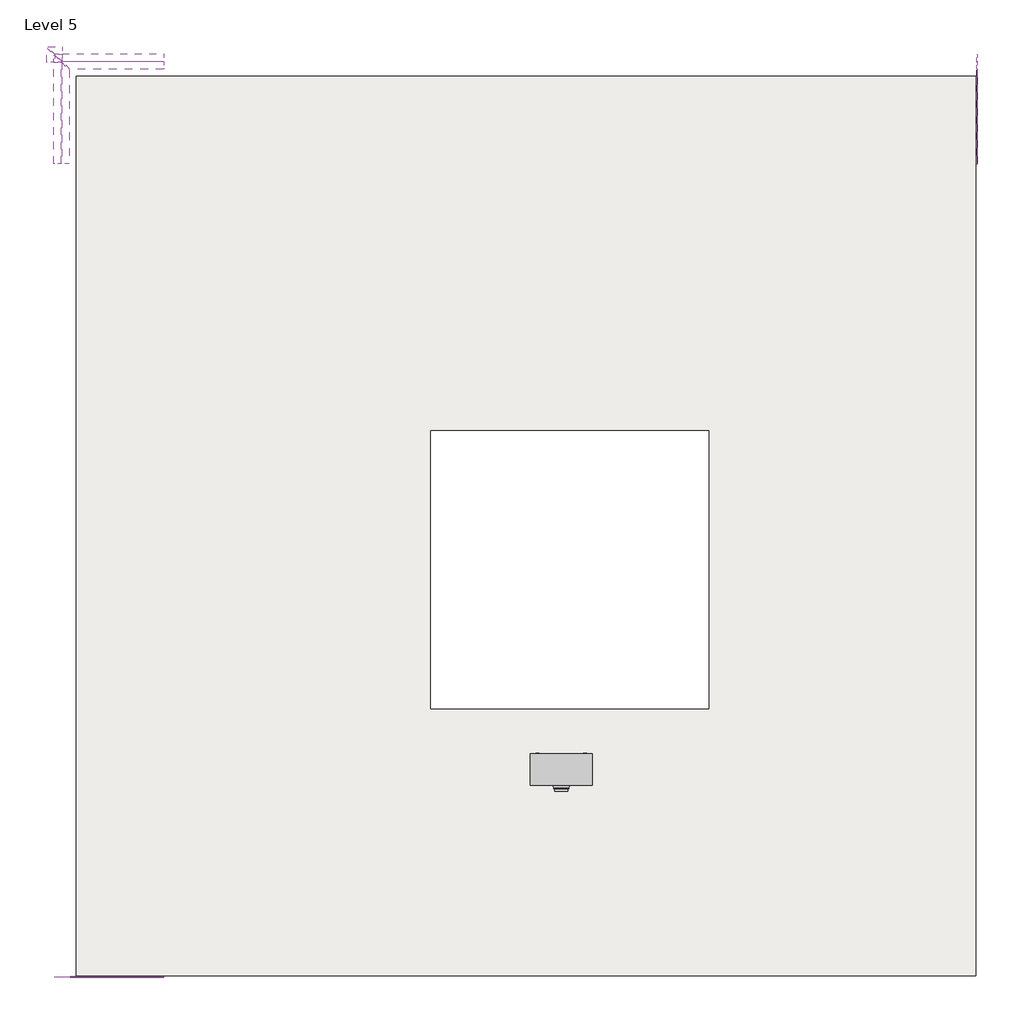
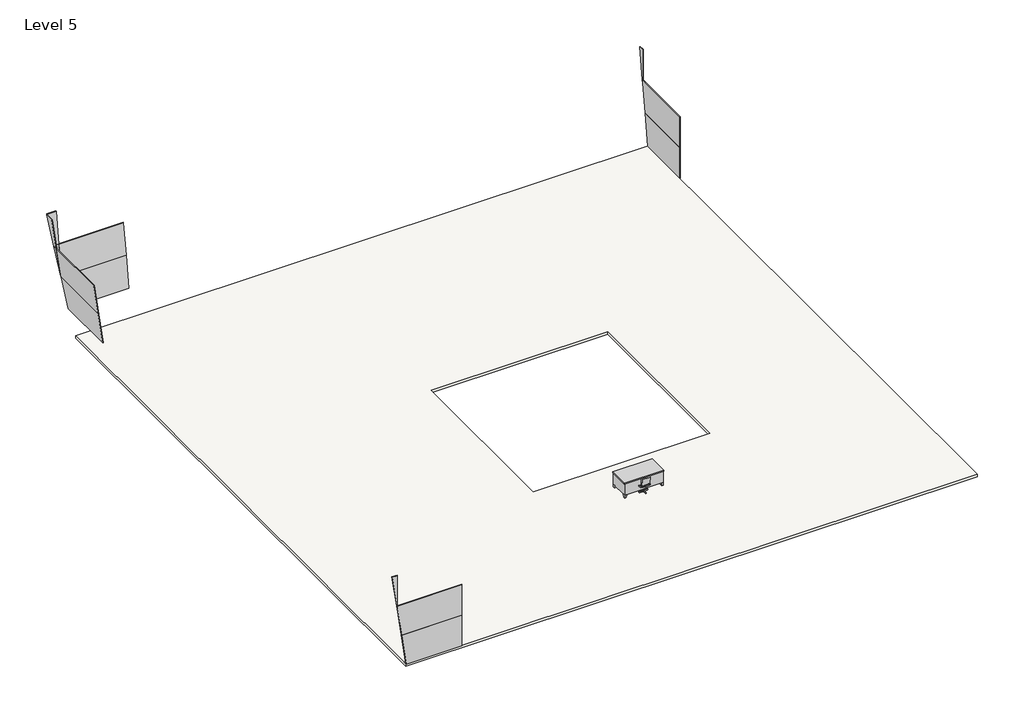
# One storey, incomplete: 16 plates, 2 furniture elements, 1 slab.
"""IFC4 building model written with IfcOpenShell, lengths in millimetres."""

import ifcopenshell
import ifcopenshell.guid

model = None  # the IFC model being written
_history = None  # IfcOwnerHistory: only IFC2X3 demands one
_inside = {}  # id of a spatial element -> (the spatial element, [elements in it])
_under = {}  # id of a project, library or spatial element -> (it, [spatial elements below it])
_declared = {}  # id of a project -> (the project, [libraries it declares])
_typed = {}  # id of a type object -> (the type object, [elements of that type])
_made_of = {}  # id of a material, layer set ... -> (it, [elements and type objects made of it])


def new_model(schema):
    """Start an empty IFC model of exactly this schema.

    Asked for "IFC4X3", IfcOpenShell would pick the latest addendum, in which some entities
    have other attributes; the version numbers below select the first issue.
    IFC2X3 requires an IfcOwnerHistory on every rooted entity: one is made here for all.
    """
    global model, _history
    if schema == "IFC4X3":
        model = ifcopenshell.file(schema_version=(4, 3, 0, 0))
    else:
        model = ifcopenshell.file(schema=schema)
    _inside.clear()
    _under.clear()
    _declared.clear()
    _typed.clear()
    _made_of.clear()
    _history = None
    if model.schema == "IFC2X3":
        org = make("IfcOrganization", Name="unknown")
        user = make(
            "IfcPersonAndOrganization",
            ThePerson=make("IfcPerson", FamilyName="unknown"),
            TheOrganization=org,
        )
        app = make(
            "IfcApplication",
            ApplicationDeveloper=org,
            Version="unknown",
            ApplicationFullName="unknown",
            ApplicationIdentifier="unknown",
        )
        _history = make(
            "IfcOwnerHistory",
            OwningUser=user,
            OwningApplication=app,
            ChangeAction="ADDED",
            CreationDate=0,
        )
    return model


def make(cls, **values):
    """One entity of the class cls with the attributes given. An attribute that is None is left unset."""
    return model.create_entity(
        cls, **{name: value for name, value in values.items() if value is not None}
    )


def rooted(cls, **values):
    """An entity with a GlobalId (a new one), such as an element, a storey or a relation."""
    return make(cls, GlobalId=ifcopenshell.guid.new(), OwnerHistory=_history, **values)


def si_unit(unit_type, name, prefix=None):
    """IfcSIUnit, for example si_unit("LENGTHUNIT", "METRE", prefix="MILLI")."""
    return make("IfcSIUnit", UnitType=unit_type, Prefix=prefix, Name=name)


def assignment(units):
    """IfcUnitAssignment: the units of a project."""
    return None if units is None else make("IfcUnitAssignment", Units=units)


def point(xyz):
    """IfcCartesianPoint."""
    return None if xyz is None else make("IfcCartesianPoint", Coordinates=xyz)


def direction(xyz):
    """IfcDirection."""
    return None if xyz is None else make("IfcDirection", DirectionRatios=xyz)


def frame(location, z_axis=None, x_axis=None):
    """IfcAxis2Placement3D, a coordinate frame: its origin and axes. An axis left out is left unset."""
    return make(
        "IfcAxis2Placement3D",
        Location=point(location),
        Axis=direction(z_axis),
        RefDirection=direction(x_axis),
    )


def frame_2d(location, x_axis=None):
    """IfcAxis2Placement2D, a coordinate frame in the plane: its origin and x axis."""
    return make(
        "IfcAxis2Placement2D", Location=point(location), RefDirection=direction(x_axis)
    )


def origin():
    """The frame at (0, 0, 0) with its axes left unset."""
    return frame((0.0, 0.0, 0.0))


def origin_with_axes():
    """The frame at (0, 0, 0) with the z axis (0, 0, 1) and the x axis (1, 0, 0) written out."""
    return frame((0.0, 0.0, 0.0), z_axis=(0.0, 0.0, 1.0), x_axis=(1.0, 0.0, 0.0))


def place(relative_to, where):
    """IfcLocalPlacement: puts the frame where relative to a parent placement (None: the world)."""
    return make(
        "IfcLocalPlacement", PlacementRelTo=relative_to, RelativePlacement=where
    )


def context(
    kind, dimensions, precision=None, world=None, true_north=None, identifier=None
):
    """IfcGeometricRepresentationContext, for example the 3D "Model" context."""
    return make(
        "IfcGeometricRepresentationContext",
        ContextIdentifier=identifier,
        ContextType=kind,
        CoordinateSpaceDimension=dimensions,
        Precision=precision,
        WorldCoordinateSystem=world,
        TrueNorth=true_north,
    )


def project(units=None, contexts=None):
    """IfcProject with its units and contexts."""
    return rooted(
        "IfcProject",
        Name="project",
        RepresentationContexts=contexts,
        UnitsInContext=assignment(units),
    )


def spatial(cls, under=None, at=None, **own):
    """A site, building, storey or space (cls), placed at a placement, below another one or the project."""
    s = rooted(cls, ObjectPlacement=at, **own)
    if under is not None:
        _under.setdefault(under.id(), (under, []))[1].append(s)
    return s


def polyline(points):
    """IfcPolyline through the points."""
    return make("IfcPolyline", Points=[point(p) for p in points])


def circle_curve(where, radius):
    """IfcCircle in the frame where."""
    return make("IfcCircle", Position=where, Radius=radius)


def trimmed(basis, trim1, trim2, sense, master):
    """IfcTrimmedCurve: the piece of a basis curve between two trims."""
    return make(
        "IfcTrimmedCurve",
        BasisCurve=basis,
        Trim1=trim1,
        Trim2=trim2,
        SenseAgreement=sense,
        MasterRepresentation=master,
    )


def segment(curve, same_sense, transition):
    """IfcCompositeCurveSegment."""
    return make(
        "IfcCompositeCurveSegment",
        Transition=transition,
        SameSense=same_sense,
        ParentCurve=curve,
    )


def composite_curve(segments, self_intersect=None):
    """IfcCompositeCurve: segments joined end to end."""
    return make("IfcCompositeCurve", Segments=segments, SelfIntersect=self_intersect)


def outline(outer, holes=None, kind="AREA"):
    """IfcArbitraryClosedProfileDef: a profile drawn as a closed curve; with holes, ...WithVoids."""
    if holes is None:
        return make("IfcArbitraryClosedProfileDef", ProfileType=kind, OuterCurve=outer)
    return make(
        "IfcArbitraryProfileDefWithVoids",
        ProfileType=kind,
        OuterCurve=outer,
        InnerCurves=holes,
    )


def extrude(swept, where, along, depth):
    """IfcExtrudedAreaSolid: the profile swept, set in the frame where, extruded along a direction by depth."""
    return make(
        "IfcExtrudedAreaSolid",
        SweptArea=swept,
        Position=where,
        ExtrudedDirection=direction(along),
        Depth=depth,
    )


def faces_of(points, faces, orient=None, outer=None):
    """IfcFace entities. A face is a list of loops; a loop is a list of indices into points, from 0.

    orient and outer hold one flag for each loop. By default every Orientation is true, the
    first loop of a face is its IfcFaceOuterBound and the others are IfcFaceBound.
    """
    made = []
    for i, loops in enumerate(faces):
        bounds = []
        for j, loop in enumerate(loops):
            is_outer = j == 0 if outer is None else outer[i][j]
            bounds.append(
                make(
                    "IfcFaceOuterBound" if is_outer else "IfcFaceBound",
                    Bound=make("IfcPolyLoop", Polygon=[points[k] for k in loop]),
                    Orientation=True if orient is None else orient[i][j],
                )
            )
        made.append(make("IfcFace", Bounds=bounds))
    return made


def faceted_brep(points, faces, orient=None, outer=None, voids=None):
    """IfcFacetedBrep: a solid bounded by flat faces; with voids (closed shells), ...WithVoids."""
    shared = [point(p) for p in points]
    hull = make("IfcClosedShell", CfsFaces=faces_of(shared, faces, orient, outer))
    if voids is None:
        return make("IfcFacetedBrep", Outer=hull)
    return make(
        "IfcFacetedBrepWithVoids",
        Outer=hull,
        Voids=[
            make(cls, CfsFaces=faces_of(shared, fs, o, b)) for cls, fs, o, b in voids
        ],
    )


def shape(context_of_items, identifier, shape_type, items):
    """IfcShapeRepresentation: the items that make up one representation, for example the "Body"."""
    return make(
        "IfcShapeRepresentation",
        ContextOfItems=context_of_items,
        RepresentationIdentifier=identifier,
        RepresentationType=shape_type,
        Items=items,
    )


def source(mapping_origin, context_of_items, identifier, shape_type, items):
    """IfcRepresentationMap: a shape defined once, which mapped items show again and again."""
    return make(
        "IfcRepresentationMap",
        MappingOrigin=mapping_origin,
        MappedRepresentation=shape(context_of_items, identifier, shape_type, items),
    )


def transform(
    local_origin,
    x_axis=None,
    y_axis=None,
    z_axis=None,
    scale=None,
    scale2=None,
    scale3=None,
    uniform=True,
):
    """IfcCartesianTransformationOperator3D, or its non-uniform kind. x_axis, y_axis, z_axis: its Axis1, 2, 3."""
    if uniform:
        return make(
            "IfcCartesianTransformationOperator3D",
            Axis1=direction(x_axis),
            Axis2=direction(y_axis),
            LocalOrigin=point(local_origin),
            Scale=scale,
            Axis3=direction(z_axis),
        )
    return make(
        "IfcCartesianTransformationOperator3DnonUniform",
        Axis1=direction(x_axis),
        Axis2=direction(y_axis),
        LocalOrigin=point(local_origin),
        Scale=scale,
        Axis3=direction(z_axis),
        Scale2=scale2,
        Scale3=scale3,
    )


def mapped(mapping_source, mapping_target):
    """IfcMappedItem: shows the shape of a source again, moved by a transform."""
    return make(
        "IfcMappedItem", MappingSource=mapping_source, MappingTarget=mapping_target
    )


def made_of(thing, what):
    """Note that an element or type object is made of a material, layer set ...; save() writes the relation."""
    if what is not None:
        _made_of.setdefault(what.id(), (what, []))[1].append(thing)
    return thing


def element(
    cls,
    number,
    at=None,
    inside=None,
    cuts=None,
    type_object=None,
    material=None,
    context=None,
    identifier="Body",
    shape_type=None,
    held_by="IfcProductDefinitionShape",
    body=None,
    shapes=None,
    **own,
):
    """One element of the class cls, such as IfcWall. Its Tag is "e" and its number.

    at: its placement. inside: the storey or other place that contains it. cuts: it is an
    opening in that element (IfcRelVoidsElement). A single representation is given by context,
    identifier, shape_type and body (its items); several are given by shapes. held_by: the class
    of the entity that holds the representations. save() writes the other relations.
    """
    e = rooted(cls, Tag="e%d" % number, ObjectPlacement=at, **own)
    if body is not None:
        shapes = [shape(context, identifier, shape_type, body)]
    if shapes is not None:
        e.Representation = make(held_by, Representations=shapes)
    if inside is not None:
        _inside.setdefault(inside.id(), (inside, []))[1].append(e)
    if cuts is not None:
        rooted(
            "IfcRelVoidsElement", RelatingBuildingElement=cuts, RelatedOpeningElement=e
        )
    if type_object is not None:
        _typed.setdefault(type_object.id(), (type_object, []))[1].append(e)
    return made_of(e, material)


def aggregate(whole, parts):
    """IfcRelAggregates: a whole, such as a stair, and the parts it consists of."""
    return rooted("IfcRelAggregates", RelatingObject=whole, RelatedObjects=parts)


def save(model, path):
    """Write the relations noted so far, then the file.

    IfcRelAggregates (storeys below a building ...), IfcRelContainedInSpatialStructure (elements
    in a storey), IfcRelDefinesByType, IfcRelAssociatesMaterial and IfcRelDeclares: one each for
    every whole, place, type object, material and project.
    """
    for whole, parts in _under.values():
        aggregate(whole, parts)
    for where, things in _inside.values():
        rooted(
            "IfcRelContainedInSpatialStructure",
            RelatedElements=things,
            RelatingStructure=where,
        )
    for kind, things in _typed.values():
        rooted("IfcRelDefinesByType", RelatedObjects=things, RelatingType=kind)
    for what, things in _made_of.values():
        rooted("IfcRelAssociatesMaterial", RelatedObjects=things, RelatingMaterial=what)
    for by, libraries in _declared.values():
        rooted("IfcRelDeclares", RelatingContext=by, RelatedDefinitions=libraries)
    model.write(path)


def chair_desk_chair_desk_ccc35c8f(model_context):
    return source(origin(), model_context, "Body", "SweptSolid", [
        extrude(outline(polyline([(-203.6618182, 175.0290909), (-25.8618182, 175.0290909), (-25.8618182, 150.0462968), (-203.6618182, 150.0462968), (-203.6618182, 175.0290909)])), origin_with_axes(), (0.0, 0.0, 1.0), 58.5040426),
        extrude(outline(polyline([(204.1236364, 175.0290909), (204.1236364, 152.4), (26.7854545, 152.4), (26.7854545, 175.0290909), (204.1236364, 175.0290909)])), origin_with_axes(), (0.0, 0.0, 1.0), 58.5040426),
        extrude(outline(polyline([(-16.1636364, 188.8836364), (-16.1636364, 374.9517514), (14.3163636, 374.9517514), (14.3163636, 188.8836364), (-16.1636364, 188.8836364)])), origin_with_axes(), (0.0, 0.0, 1.0), 58.5040426),
        extrude(outline(polyline([(14.3163636, 136.2363636), (14.3163636, -33.2509091), (-16.1636364, -33.2509091), (-16.1636364, 136.2363636), (14.3163636, 136.2363636)])), origin_with_axes(), (0.0, 0.0, 1.0), 58.5040426),
        extrude(outline(polyline([(26.3236364, 190.2690909), (26.3236364, 139.4690909), (-24.4763636, 139.4690909), (-24.4763636, 190.2690909), (26.3236364, 190.2690909)])), origin_with_axes(), (0.0, 0.0, 1.0), 355.6),
        extrude(outline(composite_curve([segment(polyline([(-13.6321252, 787.4), (25.5523927, 451.3880753)]), True, "CONTINUOUS"), segment(trimmed(circle_curve(frame_2d((0.0761963, 451.3880753)), 25.4761963), [point((25.5523927, 451.3880753))], [point((-25.4, 451.3880753))], False, "CARTESIAN"), True, "CONTINUOUS"), segment(polyline([(-25.4, 451.3880753), (-67.209111, 787.4)]), True, "CONTINUOUS"), segment(trimmed(circle_curve(frame_2d((-40.4206181, 787.4)), 26.7884929), [point((-67.209111, 787.4))], [point((-13.6321252, 787.4))], False, "CARTESIAN"), True, "CONTINUOUS")], self_intersect=False)), frame((-194.3643056, 0.0, 0.0), z_axis=(1.0, 0.0, 0.0), x_axis=(0.0, 1.0, 0.0)), (0.0, 0.0, 1.0), 383.2768056),
        extrude(outline(composite_curve([segment(trimmed(circle_curve(frame_2d((-157.1362322, 297.1024212)), 109.4001491), [point((-266.4057871, 302.4462968))], [point((-152.4, 406.4))], False, "CARTESIAN"), True, "CONTINUOUS"), segment(polyline([(-152.4, 406.4), (162.2530084, 406.4)]), True, "CONTINUOUS"), segment(trimmed(circle_curve(frame_2d((162.2530084, 302.4462968)), 103.9537032), [point((162.2530084, 406.4))], [point((266.2067116, 302.4462968))], False, "CARTESIAN"), True, "CONTINUOUS"), segment(polyline([(266.2067116, 302.4462968), (228.6, 0.0)]), True, "CONTINUOUS"), segment(trimmed(circle_curve(frame_2d((0.0, 446.8941036)), 501.9684252), [point((228.6, 0.0))], [point((-228.6, 0.0))], False, "CARTESIAN"), True, "CONTINUOUS"), segment(polyline([(-228.6, 0.0), (-266.4057871, 302.4462968)]), True, "CONTINUOUS")], self_intersect=False)), frame((0.0, 0.0, 355.6), z_axis=(0.0, 0.0, 1.0), x_axis=(1.0, 0.0, 0.0)), (0.0, 0.0, 1.0), 50.8),
    ])


def furniture_2fc54265(model_context):
    return source(origin(), model_context, "Body", "SolidModel", [
        extrude(outline(polyline([(1809.75, 914.4), (1441.45, 914.4), (1441.45, 927.1), (1809.75, 927.1), (1809.75, 914.4)])), frame((0.0, 0.0, 603.25), z_axis=(0.0, 0.0, 1.0), x_axis=(1.0, 0.0, 0.0)), (0.0, 0.0, 1.0), 101.6),
        extrude(outline(polyline([(1809.75, 914.4), (1441.45, 914.4), (1441.45, 927.1), (1809.75, 927.1), (1809.75, 914.4)])), frame((0.0, 0.0, 171.45), z_axis=(0.0, 0.0, 1.0), x_axis=(1.0, 0.0, 0.0)), (0.0, 0.0, 1.0), 412.75),
        extrude(outline(polyline([(387.35, 914.4), (19.05, 914.4), (19.05, 927.1), (387.35, 927.1), (387.35, 914.4)])), frame((0.0, 0.0, 603.25), z_axis=(0.0, 0.0, 1.0), x_axis=(1.0, 0.0, 0.0)), (0.0, 0.0, 1.0), 101.6),
        extrude(outline(polyline([(387.35, 914.4), (19.05, 914.4), (19.05, 927.1), (387.35, 927.1), (387.35, 914.4)])), frame((0.0, 0.0, 171.45), z_axis=(0.0, 0.0, 1.0), x_axis=(1.0, 0.0, 0.0)), (0.0, 0.0, 1.0), 171.45),
        extrude(outline(polyline([(387.35, 914.4), (19.05, 914.4), (19.05, 927.1), (387.35, 927.1), (387.35, 914.4)])), frame((0.0, 0.0, 482.6), z_axis=(0.0, 0.0, 1.0), x_axis=(1.0, 0.0, 0.0)), (0.0, 0.0, 1.0), 101.6),
        extrude(outline(polyline([(387.35, 914.4), (19.05, 914.4), (19.05, 927.1), (387.35, 927.1), (387.35, 914.4)])), frame((0.0, 0.0, 361.95), z_axis=(0.0, 0.0, 1.0), x_axis=(1.0, 0.0, 0.0)), (0.0, 0.0, 1.0), 101.6),
        faceted_brep([(1727.2, 914.4, 152.4), (1727.2, 812.8, 152.4), (1828.8, 812.8, 152.4), (1828.8, 914.4, 152.4), (1752.6, 914.4, 0.0), (1828.8, 914.4, 0.0), (1828.8, 838.2, 0.0), (1752.6, 838.2, 0.0)], [[[0, 1, 2, 3]], [[4, 5, 6, 7]], [[4, 7, 1, 0]], [[7, 6, 2, 1]], [[6, 5, 3, 2]], [[5, 4, 0, 3]]]),
        faceted_brep([(1727.2, 0.0, 152.4), (1828.8, 0.0, 152.4), (1828.8, 101.6, 152.4), (1727.2, 101.6, 152.4), (1752.6, 0.0, 0.0), (1752.6, 76.2, 0.0), (1828.8, 76.2, 0.0), (1828.8, 0.0, 0.0)], [[[0, 1, 2, 3]], [[4, 5, 6, 7]], [[4, 7, 1, 0]], [[7, 6, 2, 1]], [[6, 5, 3, 2]], [[5, 4, 0, 3]]]),
        faceted_brep([(101.6, 0.0, 152.4), (101.6, 101.6, 152.4), (0.0, 101.6, 152.4), (0.0, 0.0, 152.4), (76.2, 0.0, 0.0), (0.0, 0.0, 0.0), (0.0, 76.2, 0.0), (76.2, 76.2, 0.0)], [[[0, 1, 2, 3]], [[4, 5, 6, 7]], [[4, 7, 1, 0]], [[7, 6, 2, 1]], [[6, 5, 3, 2]], [[5, 4, 0, 3]]]),
        faceted_brep([(101.6, 914.4, 152.4), (0.0, 914.4, 152.4), (0.0, 812.8, 152.4), (101.6, 812.8, 152.4), (76.2, 914.4, 0.0), (76.2, 838.2, 0.0), (0.0, 838.2, 0.0), (0.0, 914.4, 0.0)], [[[0, 1, 2, 3]], [[4, 5, 6, 7]], [[4, 7, 1, 0]], [[7, 6, 2, 1]], [[6, 5, 3, 2]], [[5, 4, 0, 3]]]),
        extrude(outline(polyline([(1847.85, 933.45), (1847.85, -19.05), (-19.05, -19.05), (-19.05, 933.45), (1847.85, 933.45)])), frame((0.0, 0.0, 723.9), z_axis=(0.0, 0.0, 1.0), x_axis=(1.0, 0.0, 0.0)), (0.0, 0.0, 1.0), 38.1),
        extrude(outline(polyline([(406.4, 914.4), (406.4, 50.8), (1422.4, 50.8), (1422.4, 914.4), (1828.8, 914.4), (1828.8, 0.0), (0.0, 0.0), (0.0, 914.4), (406.4, 914.4)])), frame((0.0, 0.0, 152.4), z_axis=(0.0, 0.0, 1.0), x_axis=(1.0, 0.0, 0.0)), (0.0, 0.0, 1.0), 571.5),
        faceted_brep([(1670.05, 927.1, 546.1), (1670.05, 927.1, 533.4), (1676.4, 927.1, 533.4), (1676.4, 927.1, 546.1), (1670.05, 946.15, 546.1), (1670.05, 946.15, 533.4), (1676.4, 952.5, 533.4), (1676.4, 952.5, 546.1), (1581.15, 946.15, 546.1), (1581.15, 946.15, 533.4), (1574.8, 952.5, 533.4), (1574.8, 952.5, 546.1), (1581.15, 927.1, 546.1), (1574.8, 927.1, 546.1), (1574.8, 927.1, 533.4), (1581.15, 927.1, 533.4)], [[[0, 1, 2, 3]], [[1, 0, 4, 5]], [[2, 1, 5, 6]], [[3, 2, 6, 7]], [[0, 3, 7, 4]], [[5, 4, 8, 9]], [[6, 5, 9, 10]], [[7, 6, 10, 11]], [[4, 7, 11, 8]], [[12, 13, 14, 15]], [[9, 8, 12, 15]], [[10, 9, 15, 14]], [[11, 10, 14, 13]], [[8, 11, 13, 12]]]),
        faceted_brep([(1670.05, 927.1, 666.75), (1670.05, 927.1, 654.05), (1676.4, 927.1, 654.05), (1676.4, 927.1, 666.75), (1670.05, 946.15, 666.75), (1670.05, 946.15, 654.05), (1676.4, 952.5, 654.05), (1676.4, 952.5, 666.75), (1581.15, 946.15, 666.75), (1581.15, 946.15, 654.05), (1574.8, 952.5, 654.05), (1574.8, 952.5, 666.75), (1581.15, 927.1, 666.75), (1574.8, 927.1, 666.75), (1574.8, 927.1, 654.05), (1581.15, 927.1, 654.05)], [[[0, 1, 2, 3]], [[1, 0, 4, 5]], [[2, 1, 5, 6]], [[3, 2, 6, 7]], [[0, 3, 7, 4]], [[5, 4, 8, 9]], [[6, 5, 9, 10]], [[7, 6, 10, 11]], [[4, 7, 11, 8]], [[12, 13, 14, 15]], [[9, 8, 12, 15]], [[10, 9, 15, 14]], [[11, 10, 14, 13]], [[8, 11, 13, 12]]]),
        faceted_brep([(158.75, 927.1, 304.8), (152.4, 927.1, 304.8), (152.4, 927.1, 292.1), (158.75, 927.1, 292.1), (158.75, 946.15, 304.8), (152.4, 952.5, 304.8), (152.4, 952.5, 292.1), (158.75, 946.15, 292.1), (247.65, 946.15, 304.8), (254.0, 952.5, 304.8), (254.0, 952.5, 292.1), (247.65, 946.15, 292.1), (247.65, 927.1, 304.8), (247.65, 927.1, 292.1), (254.0, 927.1, 292.1), (254.0, 927.1, 304.8)], [[[0, 1, 2, 3]], [[1, 0, 4, 5]], [[2, 1, 5, 6]], [[3, 2, 6, 7]], [[0, 3, 7, 4]], [[5, 4, 8, 9]], [[6, 5, 9, 10]], [[7, 6, 10, 11]], [[4, 7, 11, 8]], [[12, 13, 14, 15]], [[9, 8, 12, 15]], [[10, 9, 15, 14]], [[11, 10, 14, 13]], [[8, 11, 13, 12]]]),
        faceted_brep([(158.75, 927.1, 425.45), (152.4, 927.1, 425.45), (152.4, 927.1, 412.75), (158.75, 927.1, 412.75), (158.75, 946.15, 425.45), (152.4, 952.5, 425.45), (152.4, 952.5, 412.75), (158.75, 946.15, 412.75), (247.65, 946.15, 425.45), (254.0, 952.5, 425.45), (254.0, 952.5, 412.75), (247.65, 946.15, 412.75), (247.65, 927.1, 425.45), (247.65, 927.1, 412.75), (254.0, 927.1, 412.75), (254.0, 927.1, 425.45)], [[[0, 1, 2, 3]], [[1, 0, 4, 5]], [[2, 1, 5, 6]], [[3, 2, 6, 7]], [[0, 3, 7, 4]], [[5, 4, 8, 9]], [[6, 5, 9, 10]], [[7, 6, 10, 11]], [[4, 7, 11, 8]], [[12, 13, 14, 15]], [[9, 8, 12, 15]], [[10, 9, 15, 14]], [[11, 10, 14, 13]], [[8, 11, 13, 12]]]),
        faceted_brep([(158.75, 927.1, 546.1), (152.4, 927.1, 546.1), (152.4, 927.1, 533.4), (158.75, 927.1, 533.4), (158.75, 946.15, 546.1), (152.4, 952.5, 546.1), (152.4, 952.5, 533.4), (158.75, 946.15, 533.4), (247.65, 946.15, 546.1), (254.0, 952.5, 546.1), (254.0, 952.5, 533.4), (247.65, 946.15, 533.4), (247.65, 927.1, 546.1), (247.65, 927.1, 533.4), (254.0, 927.1, 533.4), (254.0, 927.1, 546.1)], [[[0, 1, 2, 3]], [[1, 0, 4, 5]], [[2, 1, 5, 6]], [[3, 2, 6, 7]], [[0, 3, 7, 4]], [[5, 4, 8, 9]], [[6, 5, 9, 10]], [[7, 6, 10, 11]], [[4, 7, 11, 8]], [[12, 13, 14, 15]], [[9, 8, 12, 15]], [[10, 9, 15, 14]], [[11, 10, 14, 13]], [[8, 11, 13, 12]]]),
        faceted_brep([(158.75, 927.1, 666.75), (152.4, 927.1, 666.75), (152.4, 927.1, 654.05), (158.75, 927.1, 654.05), (158.75, 946.15, 666.75), (152.4, 952.5, 666.75), (152.4, 952.5, 654.05), (158.75, 946.15, 654.05), (247.65, 946.15, 666.75), (254.0, 952.5, 666.75), (254.0, 952.5, 654.05), (247.65, 946.15, 654.05), (247.65, 927.1, 666.75), (247.65, 927.1, 654.05), (254.0, 927.1, 654.05), (254.0, 927.1, 666.75)], [[[0, 1, 2, 3]], [[1, 0, 4, 5]], [[2, 1, 5, 6]], [[3, 2, 6, 7]], [[0, 3, 7, 4]], [[5, 4, 8, 9]], [[6, 5, 9, 10]], [[7, 6, 10, 11]], [[4, 7, 11, 8]], [[12, 13, 14, 15]], [[9, 8, 12, 15]], [[10, 9, 15, 14]], [[11, 10, 14, 13]], [[8, 11, 13, 12]]]),
    ])


def system_panel_glazed_7d239be6(model_context):
    return source(origin(), model_context, "Body", "SweptSolid", [
        extrude(outline(polyline([(0.0, -1302.2721308), (0.0, 1519.3174859), (1524.0, 1519.3174859), (1524.0, -1519.3174859), (0.0, -1302.2721308)])), frame((0.0, 19.05, 0.0), z_axis=(0.0, 1.0, 0.0), x_axis=(0.0, 0.0, 1.0)), (0.0, 0.0, 1.0), 25.4),
    ])


def system_panel_glazed_bfdc5fdd(model_context):
    return source(origin(), model_context, "Body", "SweptSolid", [
        extrude(outline(polyline([(1458.2427621, -103.8401634), (0.0, 103.8401634), (1458.2427621, 103.8401634), (1458.2427621, -103.8401634)])), frame((0.0, 19.05, 0.0), z_axis=(0.0, 1.0, 0.0), x_axis=(0.0, 0.0, 1.0)), (0.0, 0.0, 1.0), 25.4),
    ])


def system_panel_glazed_a2a32a6e(model_context):
    return source(origin(), model_context, "Body", "SweptSolid", [
        extrude(outline(polyline([(0.0, -1514.6349718), (0.0, 1524.0), (1524.0, 1524.0), (1524.0, -1524.0), (65.7572379, -1524.0), (0.0, -1514.6349718)])), frame((0.0, 19.05, 0.0), z_axis=(0.0, 1.0, 0.0), x_axis=(0.0, 0.0, 1.0)), (0.0, 0.0, 1.0), 25.4),
    ])


def system_panel_glazed_0d452642(model_context):
    return source(origin(), model_context, "Body", "SweptSolid", [
        extrude(outline(polyline([(0.0, 4.6825141), (0.0, 212.362841), (1524.0, 212.362841), (1524.0, -212.362841), (0.0, 4.6825141)])), frame((0.0, 19.05, 0.0), z_axis=(0.0, 1.0, 0.0), x_axis=(0.0, 0.0, 1.0)), (0.0, 0.0, 1.0), 25.4),
    ])


def system_panel_glazed_0ba0d95b(model_context):
    return source(origin(), model_context, "Body", "SweptSolid", [
        extrude(outline(polyline([(0.0, -1519.3174857), (0.0, 1302.2721306), (1524.0, 1519.3174857), (1524.0, -1519.3174856), (0.0, -1519.3174857)])), frame((0.0, 19.05, 0.0), z_axis=(0.0, 1.0, 0.0), x_axis=(0.0, 0.0, 1.0)), (0.0, 0.0, 1.0), 25.4),
    ])


def system_panel_glazed_654e2594(model_context):
    return source(origin(), model_context, "Body", "SweptSolid", [
        extrude(outline(polyline([(0.0, -1524.0000001), (0.0, 1514.6349712), (65.7572421, 1524.0000001), (1524.0, 1524.0000001), (1524.0, -1524.0000001), (0.0, -1524.0000001)])), frame((0.0, 19.05, 0.0), z_axis=(0.0, 1.0, 0.0), x_axis=(0.0, 0.0, 1.0)), (0.0, 0.0, 1.0), 25.4),
    ])


def system_panel_glazed_bbdb12b6(model_context):
    return source(origin(), model_context, "Body", "SweptSolid", [
        extrude(outline(polyline([(1458.2427579, -103.8401631), (0.0, -103.8401631), (1458.2427579, 103.8401631), (1458.2427579, -103.8401631)])), frame((0.0, 19.05, 0.0), z_axis=(0.0, 1.0, 0.0), x_axis=(0.0, 0.0, 1.0)), (0.0, 0.0, 1.0), 25.4),
    ])


def system_panel_glazed_9b5be9d6(model_context):
    return source(origin(), model_context, "Body", "SweptSolid", [
        extrude(outline(polyline([(0.0, -212.3628407), (0.0, -4.6825144), (1524.0, 212.3628407), (1524.0, -212.3628407), (0.0, -212.3628407)])), frame((0.0, 19.05, 0.0), z_axis=(0.0, 1.0, 0.0), x_axis=(0.0, 0.0, 1.0)), (0.0, 0.0, 1.0), 25.4),
    ])


def system_panel_glazed_461eddc3(model_context):
    return source(origin(), model_context, "Body", "SweptSolid", [
        extrude(outline(polyline([(0.0, -1206.0431656), (0.0, 1425.3237412), (1524.0, 1425.3237412), (1524.0, -1425.3237412), (0.0, -1206.0431656)])), frame((0.0, 19.05, 0.0), z_axis=(0.0, 1.0, 0.0), x_axis=(0.0, 0.0, 1.0)), (0.0, 0.0, 1.0), 25.4),
    ])


def system_panel_glazed_3a0fa78c(model_context):
    return source(origin(), model_context, "Body", "SweptSolid", [
        extrude(outline(polyline([(152.4000021, -10.9640289), (0.0, 10.9640289), (152.4000021, 10.9640289), (152.4000021, -10.9640289)])), frame((0.0, 19.05, 0.0), z_axis=(0.0, 1.0, 0.0), x_axis=(0.0, 0.0, 1.0)), (0.0, 0.0, 1.0), 25.4),
    ])


def system_panel_glazed_15626aa9(model_context):
    return source(origin(), model_context, "Body", "SweptSolid", [
        extrude(outline(polyline([(0.0, -1326.6474823), (0.0, 1524.0), (1524.0, 1524.0), (1524.0, -1524.0), (1371.5999979, -1524.0), (0.0, -1326.6474823)])), frame((0.0, 19.05, 0.0), z_axis=(0.0, 1.0, 0.0), x_axis=(0.0, 0.0, 1.0)), (0.0, 0.0, 1.0), 25.4),
    ])


def system_panel_glazed_85b34251(model_context):
    return source(origin(), model_context, "Body", "SweptSolid", [
        extrude(outline(polyline([(0.0, 98.6762588), (0.0, 120.6043167), (1524.0, 120.6043167), (1524.0, -120.6043167), (0.0, 98.6762588)])), frame((0.0, 19.05, 0.0), z_axis=(0.0, 1.0, 0.0), x_axis=(0.0, 0.0, 1.0)), (0.0, 0.0, 1.0), 25.4),
    ])


def system_panel_glazed_4b52ce22(model_context):
    return source(origin(), model_context, "Body", "SweptSolid", [
        extrude(outline(polyline([(0.0, -1425.3237409), (0.0, 1206.0431654), (1524.0, 1425.3237409), (1524.0, -1425.3237409), (0.0, -1425.3237409)])), frame((0.0, 19.05, 0.0), z_axis=(0.0, 1.0, 0.0), x_axis=(0.0, 0.0, 1.0)), (0.0, 0.0, 1.0), 25.4),
    ])


def system_panel_glazed_63369c7e(model_context):
    return source(origin(), model_context, "Body", "SweptSolid", [
        extrude(outline(polyline([(0.0, -1524.0000001), (0.0, 1326.6474818), (1371.6000021, 1524.0000001), (1524.0, 1524.0000001), (1524.0, -1524.0000001), (0.0, -1524.0000001)])), frame((0.0, 19.05, 0.0), z_axis=(0.0, 1.0, 0.0), x_axis=(0.0, 0.0, 1.0)), (0.0, 0.0, 1.0), 25.4),
    ])


def system_panel_glazed_ebc40959(model_context):
    return source(origin(), model_context, "Body", "SweptSolid", [
        extrude(outline(polyline([(152.3999979, -10.9640286), (0.0, -10.9640286), (152.3999979, 10.9640286), (152.3999979, -10.9640286)])), frame((0.0, 19.05, 0.0), z_axis=(0.0, 1.0, 0.0), x_axis=(0.0, 0.0, 1.0)), (0.0, 0.0, 1.0), 25.4),
    ])


def system_panel_glazed_15e4bc43(model_context):
    return source(origin(), model_context, "Body", "SweptSolid", [
        extrude(outline(polyline([(0.0, -120.6043164), (0.0, -98.6762591), (1524.0, 120.6043164), (1524.0, -120.6043164), (0.0, -120.6043164)])), frame((0.0, 19.05, 0.0), z_axis=(0.0, 1.0, 0.0), x_axis=(0.0, 0.0, 1.0)), (0.0, 0.0, 1.0), 25.4),
    ])


model = new_model("IFC4")

# Units and contexts
model_context = context("Model", 3, world=origin())
ifc_project = project(units=[si_unit("LENGTHUNIT", "METRE", prefix="MILLI")], contexts=[model_context])

# Site, building, storey
site = spatial("IfcSite", under=ifc_project)
building = spatial("IfcBuilding", under=site)
storey = spatial("IfcBuildingStorey", under=building, Name="Level 5", Elevation=18288.0)

# Furniture
placement = place(None, origin())
chair_desk_chair_desk_shape = chair_desk_chair_desk_ccc35c8f(model_context)
element("IfcFurniture", 1, ObjectType="Chair-Desk : Chair-Desk", at=placement, inside=storey, context=model_context, shape_type="MappedRepresentation", body=[
    mapped(chair_desk_chair_desk_shape, transform((-3928.2026957, -6947.9708988, 18288.0), x_axis=(1.0, 0.0, 0.0), y_axis=(0.0, 1.0, 0.0), z_axis=(0.0, 0.0, 1.0))),
])
furniture_shape = furniture_2fc54265(model_context)
element("IfcFurniture", 2, ObjectType="Desk : 72\" x 36\"", at=placement, inside=storey, context=model_context, shape_type="MappedRepresentation", body=[
    mapped(furniture_shape, transform((-4842.6026957, -6820.9708988, 18288.0), x_axis=(1.0, 0.0, 0.0), y_axis=(0.0, 1.0, 0.0), z_axis=(0.0, 0.0, 1.0))),
])

# Plates
system_panel_glazed_shape = system_panel_glazed_7d239be6(model_context)
element("IfcPlate", 3, ObjectType="System Panel : Glazed", at=placement, inside=storey, context=model_context, shape_type="MappedRepresentation", body=[
    mapped(system_panel_glazed_shape, transform((-17385.5201812, 14644.2187175, 19610.0478336), x_axis=(1.0, 0.0, 0.0), y_axis=(0.0, 0.9898065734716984, -0.1424182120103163), z_axis=(0.0, 0.1424182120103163, 0.9898065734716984))),
])
system_panel_glazed_2_shape = system_panel_glazed_bfdc5fdd(model_context)
element("IfcPlate", 4, ObjectType="System Panel : Glazed", at=placement, inside=storey, context=model_context, shape_type="MappedRepresentation", body=[
    mapped(system_panel_glazed_2_shape, transform((-19018.0428588, 14870.6291009, 21183.5999979), x_axis=(1.0, 0.0, 0.0), y_axis=(0.0, 0.9898065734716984, -0.1424182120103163), z_axis=(0.0, 0.1424182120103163, 0.9898065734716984))),
])
system_panel_glazed_3_shape = system_panel_glazed_a2a32a6e(model_context)
element("IfcPlate", 5, ObjectType="System Panel : Glazed", at=placement, inside=storey, context=model_context, shape_type="MappedRepresentation", body=[
    mapped(system_panel_glazed_3_shape, transform((-17390.2026953, 14861.2640726, 21118.5130516), x_axis=(1.0, 0.0, 0.0), y_axis=(0.0, 0.9898065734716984, -0.1424182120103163), z_axis=(0.0, 0.1424182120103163, 0.9898065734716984))),
])
system_panel_glazed_4_shape = system_panel_glazed_0d452642(model_context)
element("IfcPlate", 6, ObjectType="System Panel : Glazed", at=placement, inside=storey, context=model_context, shape_type="MappedRepresentation", body=[
    mapped(system_panel_glazed_4_shape, transform((-19126.5655363, 15078.3094277, 22626.9782696), x_axis=(1.0, 0.0, 0.0), y_axis=(0.0, 0.9898065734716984, -0.1424182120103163), z_axis=(0.0, 0.1424182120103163, 0.9898065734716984))),
])
system_panel_glazed_5_shape = system_panel_glazed_0ba0d95b(model_context)
element("IfcPlate", 7, ObjectType="System Panel : Glazed", at=placement, inside=storey, context=model_context, shape_type="MappedRepresentation", body=[
    mapped(system_panel_glazed_5_shape, transform((-18687.792312, 13341.946587, 19610.0478336), x_axis=(0.0, 1.0, 0.0), y_axis=(-0.9898065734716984, 0.0, -0.1424182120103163), z_axis=(-0.1424182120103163, 0.0, 0.9898065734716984))),
])
system_panel_glazed_6_shape = system_panel_glazed_654e2594(model_context)
element("IfcPlate", 8, ObjectType="System Panel : Glazed", at=placement, inside=storey, context=model_context, shape_type="MappedRepresentation", body=[
    mapped(system_panel_glazed_6_shape, transform((-18904.8376671, 13346.6291014, 21118.5130516), x_axis=(0.0, 1.0, 0.0), y_axis=(-0.9898065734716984, 0.0, -0.1424182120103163), z_axis=(-0.1424182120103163, 0.0, 0.9898065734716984))),
])
system_panel_glazed_7_shape = system_panel_glazed_bbdb12b6(model_context)
element("IfcPlate", 9, ObjectType="System Panel : Glazed", at=placement, inside=storey, context=model_context, shape_type="MappedRepresentation", body=[
    mapped(system_panel_glazed_7_shape, transform((-18914.202696, 14974.4692646, 21183.6000021), x_axis=(0.0, 1.0, 0.0), y_axis=(-0.9898065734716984, 0.0, -0.1424182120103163), z_axis=(-0.1424182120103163, 0.0, 0.9898065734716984))),
])
system_panel_glazed_8_shape = system_panel_glazed_9b5be9d6(model_context)
element("IfcPlate", 10, ObjectType="System Panel : Glazed", at=placement, inside=storey, context=model_context, shape_type="MappedRepresentation", body=[
    mapped(system_panel_glazed_8_shape, transform((-19121.8830222, 15082.9919421, 22626.9782696), x_axis=(0.0, 1.0, 0.0), y_axis=(-0.9898065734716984, 0.0, -0.1424182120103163), z_axis=(-0.1424182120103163, 0.0, 0.9898065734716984))),
])
system_panel_glazed_9_shape = system_panel_glazed_461eddc3(model_context)
element("IfcPlate", 11, ObjectType="System Panel : Glazed", at=placement, inside=storey, context=model_context, shape_type="MappedRepresentation", body=[
    mapped(system_panel_glazed_9_shape, transform((8517.7973043, 13247.952842, 18288.0), x_axis=(0.0, -1.0, 0.0), y_axis=(1.0, 0.0, 0.0), z_axis=(0.0, 0.0, 1.0))),
])
system_panel_glazed_10_shape = system_panel_glazed_3a0fa78c(model_context)
element("IfcPlate", 12, ObjectType="System Panel : Glazed", at=placement, inside=storey, context=model_context, shape_type="MappedRepresentation", body=[
    mapped(system_panel_glazed_10_shape, transform((8517.7973043, 14881.5931298, 21183.5999979), x_axis=(0.0, -1.0, 0.0), y_axis=(1.0, 0.0, 0.0), z_axis=(0.0, 0.0, 1.0))),
])
system_panel_glazed_11_shape = system_panel_glazed_15626aa9(model_context)
element("IfcPlate", 13, ObjectType="System Panel : Glazed", at=placement, inside=storey, context=model_context, shape_type="MappedRepresentation", body=[
    mapped(system_panel_glazed_11_shape, transform((8517.7973043, 13346.6291009, 19812.0), x_axis=(0.0, -1.0, 0.0), y_axis=(1.0, 0.0, 0.0), z_axis=(0.0, 0.0, 1.0))),
])
system_panel_glazed_12_shape = system_panel_glazed_85b34251(model_context)
element("IfcPlate", 14, ObjectType="System Panel : Glazed", at=placement, inside=storey, context=model_context, shape_type="MappedRepresentation", body=[
    mapped(system_panel_glazed_12_shape, transform((8517.7973043, 14991.2334176, 21336.0), x_axis=(0.0, -1.0, 0.0), y_axis=(1.0, 0.0, 0.0), z_axis=(0.0, 0.0, 1.0))),
])
system_panel_glazed_13_shape = system_panel_glazed_4b52ce22(model_context)
element("IfcPlate", 15, ObjectType="System Panel : Glazed", at=placement, inside=storey, context=model_context, shape_type="MappedRepresentation", body=[
    mapped(system_panel_glazed_13_shape, transform((-17291.5264367, -12561.3708988, 18288.0), x_axis=(-1.0, 0.0, 0.0), y_axis=(0.0, -1.0, 0.0), z_axis=(0.0, 0.0, 1.0))),
])
system_panel_glazed_14_shape = system_panel_glazed_63369c7e(model_context)
element("IfcPlate", 16, ObjectType="System Panel : Glazed", at=placement, inside=storey, context=model_context, shape_type="MappedRepresentation", body=[
    mapped(system_panel_glazed_14_shape, transform((-17390.2026959, -12561.3708988, 19812.0), x_axis=(-1.0, 0.0, 0.0), y_axis=(0.0, -1.0, 0.0), z_axis=(0.0, 0.0, 1.0))),
])
system_panel_glazed_15_shape = system_panel_glazed_ebc40959(model_context)
element("IfcPlate", 17, ObjectType="System Panel : Glazed", at=placement, inside=storey, context=model_context, shape_type="MappedRepresentation", body=[
    mapped(system_panel_glazed_15_shape, transform((-18925.1667246, -12561.3708988, 21183.6000021), x_axis=(-1.0, 0.0, 0.0), y_axis=(0.0, -1.0, 0.0), z_axis=(0.0, 0.0, 1.0))),
])
system_panel_glazed_16_shape = system_panel_glazed_15e4bc43(model_context)
element("IfcPlate", 18, ObjectType="System Panel : Glazed", at=placement, inside=storey, context=model_context, shape_type="MappedRepresentation", body=[
    mapped(system_panel_glazed_16_shape, transform((-19034.8070123, -12561.3708988, 21336.0), x_axis=(-1.0, 0.0, 0.0), y_axis=(0.0, -1.0, 0.0), z_axis=(0.0, 0.0, 1.0))),
])

# Slab
element("IfcSlab", 19, ObjectType="3\" LW Concrete on 2\" Metal Deck", at=placement, inside=storey, context=model_context, shape_type="SweptSolid", body=[
    extrude(outline(polyline([(-18497.5696021, -12561.3708988), (-18497.5696021, 14453.9960076), (8517.7973043, 14453.9960076), (8517.7973043, -12561.3708988), (-18497.5696021, -12561.3708988)]), holes=[polyline([(-7844.5651957, 3800.9916012), (-7844.5651957, -4539.7333988), (496.1598043, -4539.7333988), (496.1598043, 3800.9916012), (-7844.5651957, 3800.9916012)])]), frame((0.0, 0.0, 18161.0), z_axis=(0.0, 0.0, 1.0), x_axis=(1.0, 0.0, 0.0)), (0.0, 0.0, 1.0), 127.0),
])

save(model, "model.ifc")
